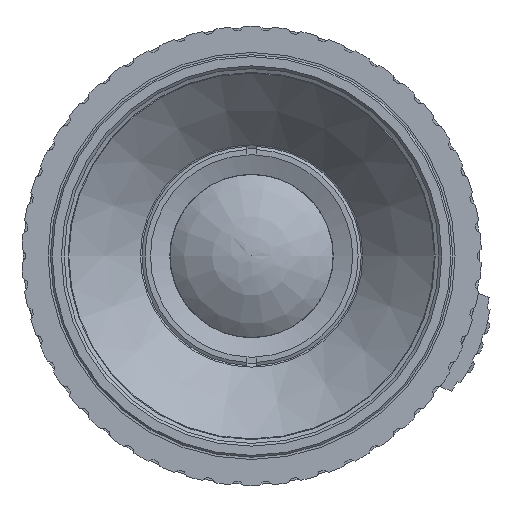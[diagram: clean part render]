
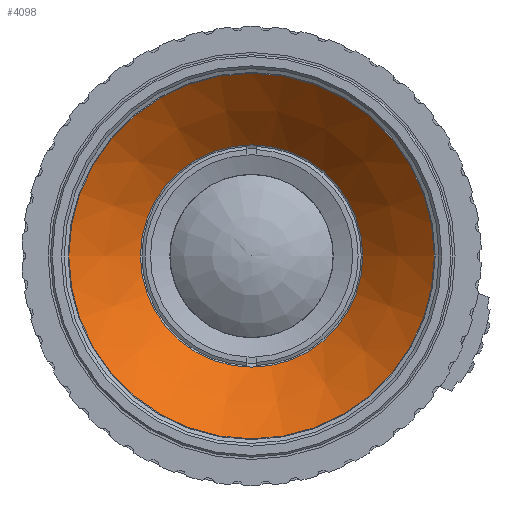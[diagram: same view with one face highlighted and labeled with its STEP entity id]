
A CAD part, left-side view. The second image highlights one B-rep face of the part: STEP entity #4098.
In plain terms, the highlighted conical face has half-angle 45 degrees and reference radius 19.9 mm.
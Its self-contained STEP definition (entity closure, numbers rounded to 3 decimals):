
#3532=CONICAL_SURFACE('',#12160,19.9,45.);
#3572=FACE_BOUND('',#5182,.T.);
#4098=ADVANCED_FACE('',(#3572,#4712),#3532,.F.);
#4712=FACE_OUTER_BOUND('',#5183,.T.);
#5182=EDGE_LOOP('',(#7490));
#5183=EDGE_LOOP('',(#7491));
#7490=ORIENTED_EDGE('',*,*,#10640,.F.);
#7491=ORIENTED_EDGE('',*,*,#10641,.T.);
#9851=VERTEX_POINT('',#15886);
#9852=VERTEX_POINT('',#15889);
#10640=EDGE_CURVE('',#9851,#9851,#11725,.T.);
#10641=EDGE_CURVE('',#9852,#9852,#11726,.T.);
#11725=CIRCLE('',#12157,12.1);
#11726=CIRCLE('',#12159,19.9);
#12157=AXIS2_PLACEMENT_3D('',#15885,#13295,#13296);
#12159=AXIS2_PLACEMENT_3D('',#15888,#13299,#13300);
#12160=AXIS2_PLACEMENT_3D('',#15890,#13301,#13302);
#13295=DIRECTION('',(-1.,0.,0.));
#13296=DIRECTION('',(0.,1.,0.));
#13299=DIRECTION('',(-1.,0.,0.));
#13300=DIRECTION('',(0.,1.,0.));
#13301=DIRECTION('',(-1.,0.,0.));
#13302=DIRECTION('',(0.,1.,0.));
#15885=CARTESIAN_POINT('',(-62.49,0.,0.));
#15886=CARTESIAN_POINT('',(-62.49,12.1,0.));
#15888=CARTESIAN_POINT('',(-70.29,0.,0.));
#15889=CARTESIAN_POINT('',(-70.29,19.9,0.));
#15890=CARTESIAN_POINT('',(-70.29,0.,0.));
